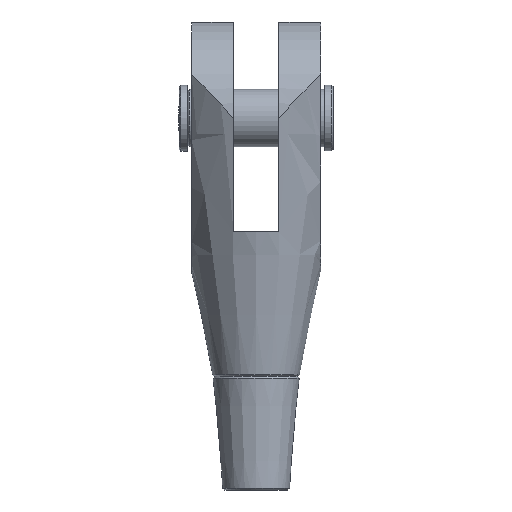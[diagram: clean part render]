
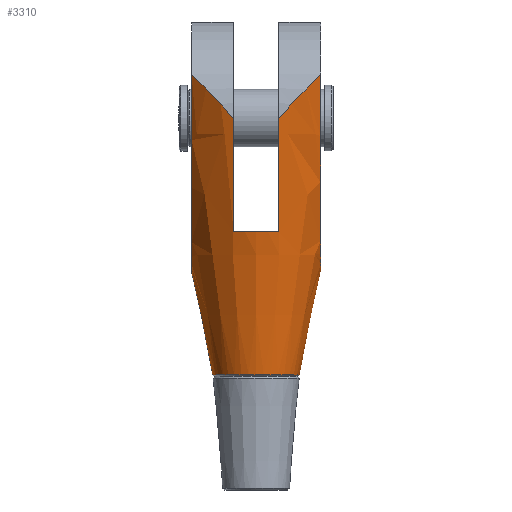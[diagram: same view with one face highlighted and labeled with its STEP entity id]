
A CAD part, front view. The second image highlights one B-rep face of the part: STEP entity #3310.
In plain terms, the highlighted conical face has half-angle 11.5 degrees and reference radius 96.344 mm.
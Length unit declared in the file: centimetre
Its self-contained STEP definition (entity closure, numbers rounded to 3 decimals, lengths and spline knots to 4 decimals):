
#886=B_SPLINE_CURVE_WITH_KNOTS('',3,(#4490,#4491,#4492,#4493,#4494,#4495,
#4496,#4497,#4498,#4499),.UNSPECIFIED.,.F.,.F.,(4,2,2,2,4),(37.274,
38.6578,41.9175,43.5474,45.1238),
 .UNSPECIFIED.);
#887=B_SPLINE_CURVE_WITH_KNOTS('',3,(#4511,#4512,#4513,#4514,#4515,#4516,
#4517,#4518,#4519,#4520),.UNSPECIFIED.,.F.,.F.,(4,2,2,2,4),(119.196,
120.7725,122.4023,125.662,127.0458),
 .UNSPECIFIED.);
#888=B_SPLINE_CURVE_WITH_KNOTS('',3,(#4526,#4527,#4528,#4529,#4530,#4531,
#4532,#4533,#4534,#4535),.UNSPECIFIED.,.F.,.F.,(4,2,2,2,4),(119.4339,
120.8178,124.0774,125.7073,127.2837),
 .UNSPECIFIED.);
#889=B_SPLINE_CURVE_WITH_KNOTS('',3,(#4546,#4547,#4548,#4549,#4550,#4551,
#4552,#4553,#4554,#4555),.UNSPECIFIED.,.F.,.F.,(4,2,2,2,4),(37.0361,
38.6126,40.2424,43.5021,44.8859),
 .UNSPECIFIED.);
#932=(
BOUNDED_CURVE()
B_SPLINE_CURVE(2,(#4486,#4487,#4488),.UNSPECIFIED.,.F.,.F.)
B_SPLINE_CURVE_WITH_KNOTS((3,3),(2.7066,62.2316),
 .UNSPECIFIED.)
CURVE()
GEOMETRIC_REPRESENTATION_ITEM()
RATIONAL_B_SPLINE_CURVE((1.063,1.723,1.063))
REPRESENTATION_ITEM('')
);
#933=(
BOUNDED_CURVE()
B_SPLINE_CURVE(2,(#4501,#4502,#4503),.UNSPECIFIED.,.F.,.F.)
B_SPLINE_CURVE_WITH_KNOTS((3,3),(10.3863,26.0562),
 .UNSPECIFIED.)
CURVE()
GEOMETRIC_REPRESENTATION_ITEM()
RATIONAL_B_SPLINE_CURVE((1.014,1.017,1.))
REPRESENTATION_ITEM('')
);
#934=(
BOUNDED_CURVE()
B_SPLINE_CURVE(2,(#4507,#4508,#4509),.UNSPECIFIED.,.F.,.F.)
B_SPLINE_CURVE_WITH_KNOTS((3,3),(0.,15.6698),.UNSPECIFIED.)
CURVE()
GEOMETRIC_REPRESENTATION_ITEM()
RATIONAL_B_SPLINE_CURVE((1.,1.017,1.014))
REPRESENTATION_ITEM('')
);
#935=(
BOUNDED_CURVE()
B_SPLINE_CURVE(2,(#4522,#4523,#4524),.UNSPECIFIED.,.F.,.F.)
B_SPLINE_CURVE_WITH_KNOTS((3,3),(2.7066,62.2316),
 .UNSPECIFIED.)
CURVE()
GEOMETRIC_REPRESENTATION_ITEM()
RATIONAL_B_SPLINE_CURVE((1.063,1.723,1.063))
REPRESENTATION_ITEM('')
);
#936=(
BOUNDED_CURVE()
B_SPLINE_CURVE(2,(#4537,#4538,#4539),.UNSPECIFIED.,.F.,.F.)
B_SPLINE_CURVE_WITH_KNOTS((3,3),(10.3863,26.0562),
 .UNSPECIFIED.)
CURVE()
GEOMETRIC_REPRESENTATION_ITEM()
RATIONAL_B_SPLINE_CURVE((1.014,1.017,1.))
REPRESENTATION_ITEM('')
);
#937=(
BOUNDED_CURVE()
B_SPLINE_CURVE(2,(#4543,#4544,#4545),.UNSPECIFIED.,.F.,.F.)
B_SPLINE_CURVE_WITH_KNOTS((3,3),(0.,15.6698),.UNSPECIFIED.)
CURVE()
GEOMETRIC_REPRESENTATION_ITEM()
RATIONAL_B_SPLINE_CURVE((1.,1.017,1.014))
REPRESENTATION_ITEM('')
);
#945=FACE_BOUND('',#1177,.T.);
#989=FACE_OUTER_BOUND('',#1176,.T.);
#1176=EDGE_LOOP('',(#2210,#2211,#2212,#2213,#2214,#2215,#2216,#2217,#2218,
#2219,#2220,#2221));
#1177=EDGE_LOOP('',(#2222));
#1405=CIRCLE('',#3502,5.2899);
#1406=CIRCLE('',#3504,8.8308);
#1407=CIRCLE('',#3505,8.8308);
#1449=VERTEX_POINT('',#4481);
#1450=VERTEX_POINT('',#4484);
#1451=VERTEX_POINT('',#4485);
#1452=VERTEX_POINT('',#4489);
#1453=VERTEX_POINT('',#4500);
#1454=VERTEX_POINT('',#4504);
#1455=VERTEX_POINT('',#4506);
#1456=VERTEX_POINT('',#4510);
#1457=VERTEX_POINT('',#4521);
#1458=VERTEX_POINT('',#4525);
#1459=VERTEX_POINT('',#4536);
#1460=VERTEX_POINT('',#4540);
#1461=VERTEX_POINT('',#4542);
#1759=EDGE_CURVE('',#1449,#1449,#1405,.T.);
#1760=EDGE_CURVE('',#1450,#1451,#932,.T.);
#1761=EDGE_CURVE('',#1451,#1452,#886,.T.);
#1762=EDGE_CURVE('',#1452,#1453,#933,.T.);
#1763=EDGE_CURVE('',#1453,#1454,#1406,.T.);
#1764=EDGE_CURVE('',#1454,#1455,#934,.T.);
#1765=EDGE_CURVE('',#1455,#1456,#887,.T.);
#1766=EDGE_CURVE('',#1456,#1457,#935,.T.);
#1767=EDGE_CURVE('',#1457,#1458,#888,.T.);
#1768=EDGE_CURVE('',#1458,#1459,#936,.T.);
#1769=EDGE_CURVE('',#1459,#1460,#1407,.T.);
#1770=EDGE_CURVE('',#1460,#1461,#937,.T.);
#1771=EDGE_CURVE('',#1461,#1450,#889,.T.);
#2210=ORIENTED_EDGE('',*,*,#1760,.T.);
#2211=ORIENTED_EDGE('',*,*,#1761,.T.);
#2212=ORIENTED_EDGE('',*,*,#1762,.T.);
#2213=ORIENTED_EDGE('',*,*,#1763,.T.);
#2214=ORIENTED_EDGE('',*,*,#1764,.T.);
#2215=ORIENTED_EDGE('',*,*,#1765,.T.);
#2216=ORIENTED_EDGE('',*,*,#1766,.T.);
#2217=ORIENTED_EDGE('',*,*,#1767,.T.);
#2218=ORIENTED_EDGE('',*,*,#1768,.T.);
#2219=ORIENTED_EDGE('',*,*,#1769,.T.);
#2220=ORIENTED_EDGE('',*,*,#1770,.T.);
#2221=ORIENTED_EDGE('',*,*,#1771,.T.);
#2222=ORIENTED_EDGE('',*,*,#1759,.F.);
#3109=CONICAL_SURFACE('',#3503,9.6344,11.5);
#3310=ADVANCED_FACE('',(#989,#945),#3109,.T.);
#3502=AXIS2_PLACEMENT_3D('',#4482,#3715,#3716);
#3503=AXIS2_PLACEMENT_3D('',#4483,#3717,#3718);
#3504=AXIS2_PLACEMENT_3D('',#4505,#3719,#3720);
#3505=AXIS2_PLACEMENT_3D('',#4541,#3721,#3722);
#3715=DIRECTION('center_axis',(0.,0.,-1.));
#3716=DIRECTION('ref_axis',(0.,-1.,0.));
#3717=DIRECTION('center_axis',(0.,0.,
1.));
#3718=DIRECTION('ref_axis',(0.,1.,0.));
#3719=DIRECTION('center_axis',(0.,0.,
-1.));
#3720=DIRECTION('ref_axis',(0.,1.,0.));
#3721=DIRECTION('center_axis',(0.,0.,
-1.));
#3722=DIRECTION('ref_axis',(0.,1.,0.));
#4481=CARTESIAN_POINT('',(0.,5.2899,-31.204));
#4482=CARTESIAN_POINT('Origin',(0.,0.,
-31.204));
#4483=CARTESIAN_POINT('Origin',(0.,0.,
-9.85));
#4484=CARTESIAN_POINT('',(7.85,10.0177,5.3508));
#4485=CARTESIAN_POINT('',(7.85,-10.0177,5.3508));
#4486=CARTESIAN_POINT('Ctrl Pts',(7.85,10.0177,5.3508));
#4487=CARTESIAN_POINT('Ctrl Pts',(7.85,0.,
-33.4061));
#4488=CARTESIAN_POINT('Ctrl Pts',(7.85,-10.0177,5.3508));
#4489=CARTESIAN_POINT('',(2.75,-11.3088,0.));
#4490=CARTESIAN_POINT('Ctrl Pts',(7.85,-10.0177,5.3508));
#4491=CARTESIAN_POINT('Ctrl Pts',(7.5414,-10.1785,5.0371));
#4492=CARTESIAN_POINT('Ctrl Pts',(7.2283,-10.3238,4.7185));
#4493=CARTESIAN_POINT('Ctrl Pts',(6.1731,-10.7591,3.6417));
#4494=CARTESIAN_POINT('Ctrl Pts',(5.4236,-10.9769,2.8733));
#4495=CARTESIAN_POINT('Ctrl Pts',(4.3518,-11.1834,1.7528));
#4496=CARTESIAN_POINT('Ctrl Pts',(4.0049,-11.2323,1.3862));
#4497=CARTESIAN_POINT('Ctrl Pts',(3.3498,-11.2944,0.6786));
#4498=CARTESIAN_POINT('Ctrl Pts',(3.0405,-11.3088,0.3374));
#4499=CARTESIAN_POINT('Ctrl Pts',(2.75,-11.3088,0.));
#4500=CARTESIAN_POINT('',(2.75,-8.3917,-13.8));
#4501=CARTESIAN_POINT('Ctrl Pts',(2.75,-11.3088,0.));
#4502=CARTESIAN_POINT('Ctrl Pts',(2.75,-9.6502,-7.9217));
#4503=CARTESIAN_POINT('Ctrl Pts',(2.75,-8.3917,-13.8));
#4504=CARTESIAN_POINT('',(-2.75,-8.3917,-13.8));
#4505=CARTESIAN_POINT('Origin',(0.,0.,
-13.8));
#4506=CARTESIAN_POINT('',(-2.75,-11.3088,0.));
#4507=CARTESIAN_POINT('Ctrl Pts',(-2.75,-8.3917,-13.8));
#4508=CARTESIAN_POINT('Ctrl Pts',(-2.75,-9.6502,-7.9217));
#4509=CARTESIAN_POINT('Ctrl Pts',(-2.75,-11.3088,0.));
#4510=CARTESIAN_POINT('',(-7.85,-10.0177,5.3508));
#4511=CARTESIAN_POINT('Ctrl Pts',(-2.75,-11.3088,0.));
#4512=CARTESIAN_POINT('Ctrl Pts',(-3.0405,-11.3088,0.3374));
#4513=CARTESIAN_POINT('Ctrl Pts',(-3.3498,-11.2944,0.6786));
#4514=CARTESIAN_POINT('Ctrl Pts',(-4.0049,-11.2323,1.3862));
#4515=CARTESIAN_POINT('Ctrl Pts',(-4.3518,-11.1834,1.7528));
#4516=CARTESIAN_POINT('Ctrl Pts',(-5.4236,-10.9769,2.8733));
#4517=CARTESIAN_POINT('Ctrl Pts',(-6.1731,-10.7591,3.6417));
#4518=CARTESIAN_POINT('Ctrl Pts',(-7.2283,-10.3238,4.7185));
#4519=CARTESIAN_POINT('Ctrl Pts',(-7.5414,-10.1785,5.0371));
#4520=CARTESIAN_POINT('Ctrl Pts',(-7.85,-10.0177,5.3508));
#4521=CARTESIAN_POINT('',(-7.85,10.0177,5.3508));
#4522=CARTESIAN_POINT('Ctrl Pts',(-7.85,-10.0177,5.3508));
#4523=CARTESIAN_POINT('Ctrl Pts',(-7.85,0.,
-33.4061));
#4524=CARTESIAN_POINT('Ctrl Pts',(-7.85,10.0177,5.3508));
#4525=CARTESIAN_POINT('',(-2.75,11.3088,0.));
#4526=CARTESIAN_POINT('Ctrl Pts',(-7.85,10.0177,5.3508));
#4527=CARTESIAN_POINT('Ctrl Pts',(-7.5414,10.1785,5.0371));
#4528=CARTESIAN_POINT('Ctrl Pts',(-7.2283,10.3238,4.7185));
#4529=CARTESIAN_POINT('Ctrl Pts',(-6.1731,10.7591,3.6417));
#4530=CARTESIAN_POINT('Ctrl Pts',(-5.4236,10.9769,2.8733));
#4531=CARTESIAN_POINT('Ctrl Pts',(-4.3518,11.1834,1.7528));
#4532=CARTESIAN_POINT('Ctrl Pts',(-4.0049,11.2323,1.3862));
#4533=CARTESIAN_POINT('Ctrl Pts',(-3.3498,11.2944,0.6786));
#4534=CARTESIAN_POINT('Ctrl Pts',(-3.0405,11.3088,0.3374));
#4535=CARTESIAN_POINT('Ctrl Pts',(-2.75,11.3088,0.));
#4536=CARTESIAN_POINT('',(-2.75,8.3917,-13.8));
#4537=CARTESIAN_POINT('Ctrl Pts',(-2.75,11.3088,0.));
#4538=CARTESIAN_POINT('Ctrl Pts',(-2.75,9.6502,-7.9217));
#4539=CARTESIAN_POINT('Ctrl Pts',(-2.75,8.3917,-13.8));
#4540=CARTESIAN_POINT('',(2.75,8.3917,-13.8));
#4541=CARTESIAN_POINT('Origin',(0.,0.,
-13.8));
#4542=CARTESIAN_POINT('',(2.75,11.3088,0.));
#4543=CARTESIAN_POINT('Ctrl Pts',(2.75,8.3917,-13.8));
#4544=CARTESIAN_POINT('Ctrl Pts',(2.75,9.6502,-7.9217));
#4545=CARTESIAN_POINT('Ctrl Pts',(2.75,11.3088,0.));
#4546=CARTESIAN_POINT('Ctrl Pts',(2.75,11.3088,0.));
#4547=CARTESIAN_POINT('Ctrl Pts',(3.0405,11.3088,0.3374));
#4548=CARTESIAN_POINT('Ctrl Pts',(3.3498,11.2944,0.6786));
#4549=CARTESIAN_POINT('Ctrl Pts',(4.0049,11.2323,1.3862));
#4550=CARTESIAN_POINT('Ctrl Pts',(4.3518,11.1834,1.7528));
#4551=CARTESIAN_POINT('Ctrl Pts',(5.4236,10.9769,2.8733));
#4552=CARTESIAN_POINT('Ctrl Pts',(6.1731,10.7591,3.6417));
#4553=CARTESIAN_POINT('Ctrl Pts',(7.2283,10.3238,4.7185));
#4554=CARTESIAN_POINT('Ctrl Pts',(7.5414,10.1785,5.0371));
#4555=CARTESIAN_POINT('Ctrl Pts',(7.85,10.0177,5.3508));
